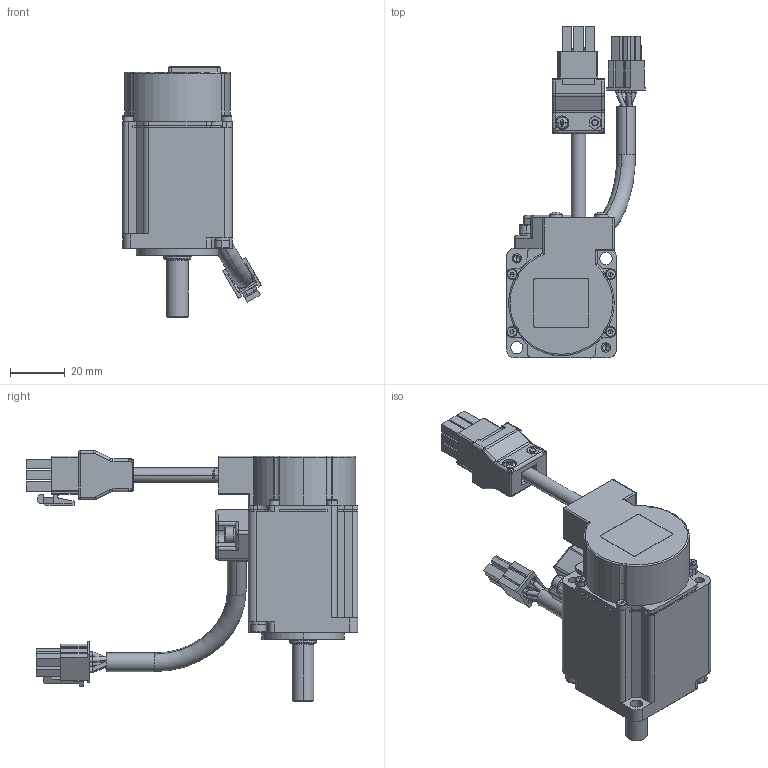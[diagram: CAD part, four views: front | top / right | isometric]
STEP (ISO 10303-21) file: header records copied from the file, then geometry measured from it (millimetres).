
FILE_DESCRIPTION (( 'STEP AP214' ), '1' );
FILE_NAME ('SME-L005.STEP', '2020-05-18T08:18:10', ( '' ), ( '' ), 'SwSTEP 2.0', 'SolidWorks 2016', '' );
FILE_SCHEMA (( 'AUTOMOTIVE_DESIGN' ));
Length unit declared in the file: millimetre
Products named in the file (1): SME-L005
Bounding box: 50.65 x 121 x 91.5 mm (x, y, z)
Volume: 173007.6 mm3; surface area: 42915.5 mm2
Topology: 39 solids, 39 shells, 1751 faces, 4615 edges, 2937 vertices
Faces by surface type: plane 930, cylinder 417, bspline 227, cone 167, torus 10
Entity records: 83183 total; most frequent: CARTESIAN_POINT 25326, ORIENTED_EDGE 9044, DIRECTION 7421, EDGE_CURVE 4522, VERTEX_POINT 2938, LINE 2581, VECTOR 2581, AXIS2_PLACEMENT_3D 2420
